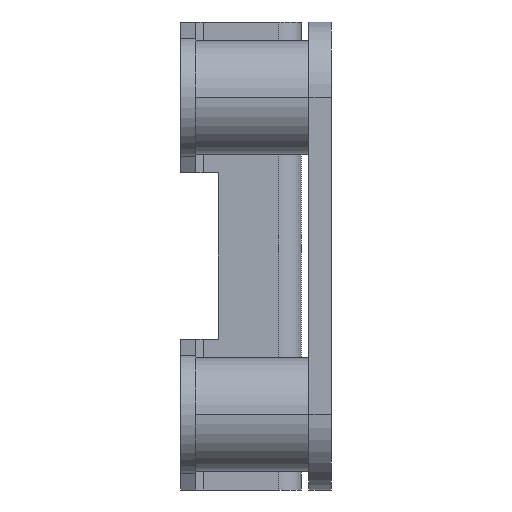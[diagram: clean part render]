
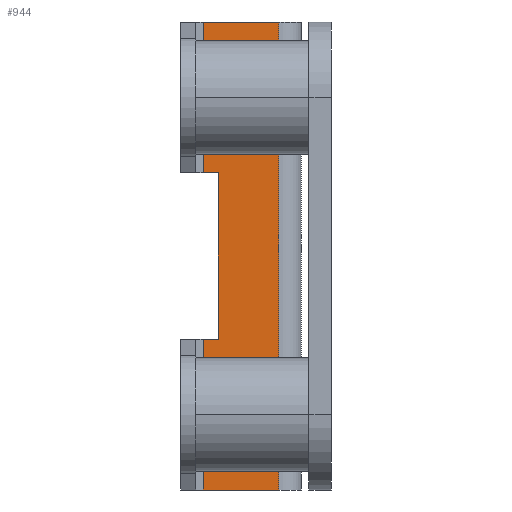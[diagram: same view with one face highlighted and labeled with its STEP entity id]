
A CAD part, left-side view. The second image highlights one B-rep face of the part: STEP entity #944.
In plain terms, the highlighted planar face has unit normal (-1, 0, 0).
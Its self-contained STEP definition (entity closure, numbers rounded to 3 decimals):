
#372=FACE_OUTER_BOUND('',#1276,.T.);
#515=LINE('',#4640,#721);
#549=LINE('',#4749,#755);
#574=LINE('',#4813,#780);
#577=LINE('',#4819,#783);
#578=LINE('',#4820,#784);
#579=LINE('',#4822,#785);
#580=LINE('',#4824,#786);
#581=LINE('',#4826,#787);
#721=VECTOR('',#3822,1.);
#755=VECTOR('',#3924,1.);
#780=VECTOR('',#3989,1.);
#783=VECTOR('',#3996,1.);
#784=VECTOR('',#3997,1.);
#785=VECTOR('',#3998,1.);
#786=VECTOR('',#3999,1.);
#787=VECTOR('',#4000,1.);
#944=ADVANCED_FACE('',(#372),#1019,.T.);
#1019=PLANE('',#3184);
#1276=EDGE_LOOP('',(#1933,#1934,#1935,#1936,#1937,#1938,#1939,#1940));
#1933=ORIENTED_EDGE('',*,*,#2627,.F.);
#1934=ORIENTED_EDGE('',*,*,#2662,.F.);
#1935=ORIENTED_EDGE('',*,*,#2574,.T.);
#1936=ORIENTED_EDGE('',*,*,#2663,.F.);
#1937=ORIENTED_EDGE('',*,*,#2664,.T.);
#1938=ORIENTED_EDGE('',*,*,#2665,.F.);
#1939=ORIENTED_EDGE('',*,*,#2666,.T.);
#1940=ORIENTED_EDGE('',*,*,#2659,.T.);
#2243=VERTEX_POINT('',#4639);
#2244=VERTEX_POINT('',#4641);
#2284=VERTEX_POINT('',#4748);
#2285=VERTEX_POINT('',#4750);
#2302=VERTEX_POINT('',#4810);
#2305=VERTEX_POINT('',#4821);
#2306=VERTEX_POINT('',#4823);
#2307=VERTEX_POINT('',#4825);
#2574=EDGE_CURVE('',#2244,#2243,#515,.T.);
#2627=EDGE_CURVE('',#2284,#2285,#549,.T.);
#2659=EDGE_CURVE('',#2302,#2285,#574,.T.);
#2662=EDGE_CURVE('',#2244,#2284,#577,.T.);
#2663=EDGE_CURVE('',#2305,#2243,#578,.T.);
#2664=EDGE_CURVE('',#2305,#2306,#579,.T.);
#2665=EDGE_CURVE('',#2307,#2306,#580,.T.);
#2666=EDGE_CURVE('',#2307,#2302,#581,.T.);
#3184=AXIS2_PLACEMENT_3D('',#4827,#4001,#4002);
#3822=DIRECTION('',(0.,-1.,0.));
#3924=DIRECTION('',(0.,-1.,0.));
#3989=DIRECTION('',(0.,0.,-1.));
#3996=DIRECTION('',(0.,0.,1.));
#3997=DIRECTION('',(0.,0.,-1.));
#3998=DIRECTION('',(0.,1.,0.));
#3999=DIRECTION('',(0.,0.,1.));
#4000=DIRECTION('',(0.,-1.,0.));
#4001=DIRECTION('',(-1.,0.,0.));
#4002=DIRECTION('',(0.,0.,-1.));
#4639=CARTESIAN_POINT('',(-35.,3.,-62.));
#4640=CARTESIAN_POINT('',(-35.,13.,-62.));
#4641=CARTESIAN_POINT('',(-35.,13.,-62.));
#4748=CARTESIAN_POINT('',(-35.,13.,-42.));
#4749=CARTESIAN_POINT('',(-35.,13.,-42.));
#4750=CARTESIAN_POINT('',(-35.,11.,-42.));
#4810=CARTESIAN_POINT('',(-35.,11.,-20.));
#4813=CARTESIAN_POINT('',(-35.,11.,-20.));
#4819=CARTESIAN_POINT('',(-35.,13.,-62.));
#4820=CARTESIAN_POINT('',(-35.,3.,0.));
#4821=CARTESIAN_POINT('',(-35.,3.,0.));
#4822=CARTESIAN_POINT('',(-35.,3.,0.));
#4823=CARTESIAN_POINT('',(-35.,13.,0.));
#4824=CARTESIAN_POINT('',(-35.,13.,-20.));
#4825=CARTESIAN_POINT('',(-35.,13.,-20.));
#4826=CARTESIAN_POINT('',(-35.,13.,-20.));
#4827=CARTESIAN_POINT('',(-35.,0.,-62.));
